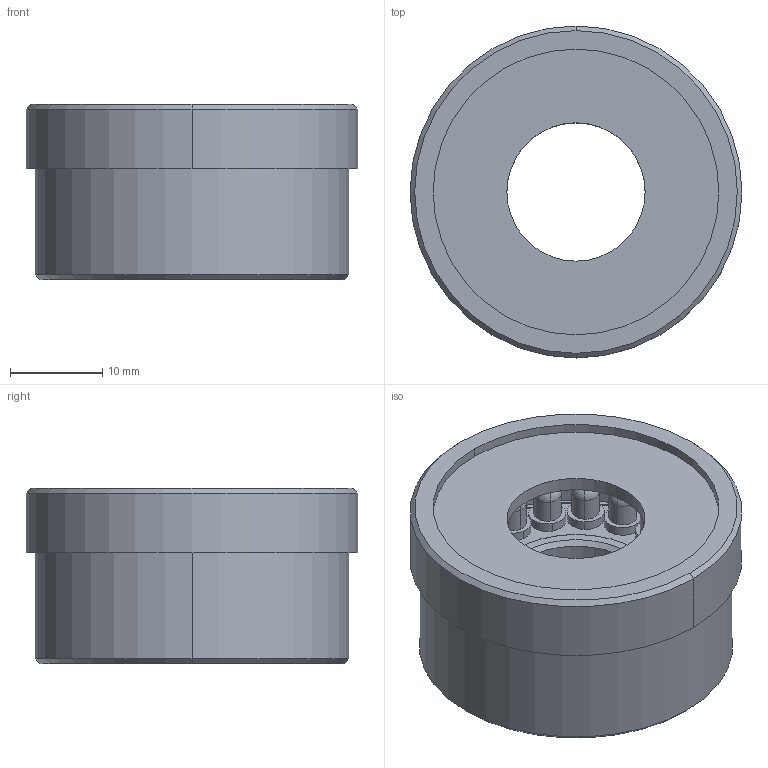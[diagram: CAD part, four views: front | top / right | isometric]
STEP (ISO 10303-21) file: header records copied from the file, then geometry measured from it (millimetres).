
FILE_DESCRIPTION((''),'2;1');
FILE_NAME('DRL3400_ASM','2020-03-27T',('ASUS'),(''),'PRO/ENGINEER BY PARAMETRIC TECHNOLOGY CORPORATION, 2008380','PRO/ENGINEER BY PARAMETRIC TECHNOLOGY CORPORATION, 2008380','');
FILE_SCHEMA(('CONFIG_CONTROL_DESIGN'));
Length unit declared in the file: millimetre
Products named in the file (3): DRL3400; LED; DRL3400_ASM
Assembly tree (19 placements, depth 2):
  DRL3400_ASM
    DRL3400
    LED  x18
Bounding box: 36 x 36 x 19 mm (x, y, z)
Volume: 10002.9 mm3; surface area: 8633.9 mm2
Topology: 19 solids, 23 shells, 213 faces, 444 edges, 258 vertices
Faces by surface type: cylinder 108, plane 49, sphere 36, cone 20
Entity records: 2335 total; most frequent: DIRECTION 466, CARTESIAN_POINT 368, ORIENTED_EDGE 308, AXIS2_PLACEMENT_3D 203, EDGE_CURVE 162, VERTEX_POINT 105, CIRCLE 102, EDGE_LOOP 95
